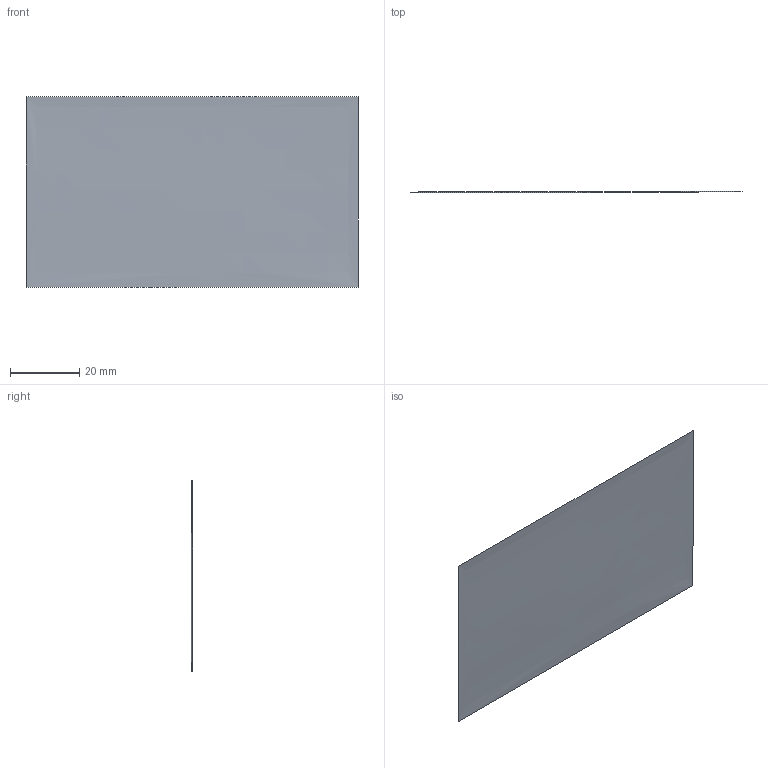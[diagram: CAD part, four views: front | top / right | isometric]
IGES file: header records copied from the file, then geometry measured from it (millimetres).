
Start section:  PTC IGES file: scantools.igs
Global section: file name: scantools.igs; native system: Pro/ENGINEER by Parametric Technology Corporation; preprocessor: 2002220; author: _____; organization: Unknown; date: 040323.135823; units: millimetre
Bounding box: 96 x 0.42 x 55.02 mm (x, y, z)
Surface area: 5280.9 mm2 (no closed solid volume)
Topology: 0 solids, 0 shells, 1 faces, 4 edges, 4 vertices
Faces by surface type: bspline 1
